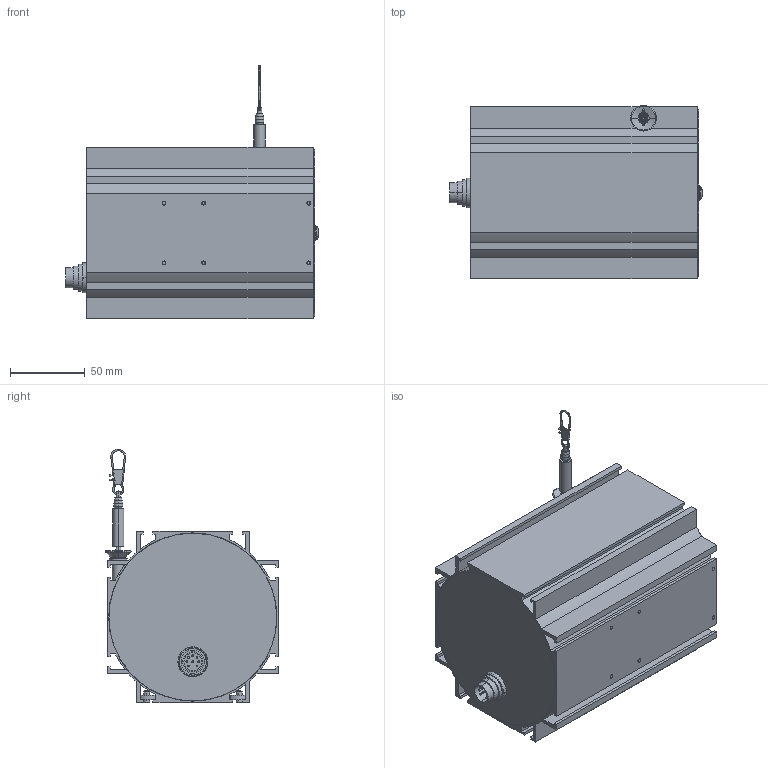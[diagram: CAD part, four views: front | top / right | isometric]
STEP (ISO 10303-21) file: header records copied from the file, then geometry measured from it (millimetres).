
FILE_DESCRIPTION((''),'2;1');
FILE_NAME('','2007-03-21T',(''),(''),'PRO/ENGINEER BY PARAMETRIC TECHNOLOGY CORPORATION, 2003250','PRO/ENGINEER BY PARAMETRIC TECHNOLOGY CORPORATION, 2003250','');
FILE_SCHEMA(('CONFIG_CONTROL_DESIGN'));
Length unit declared in the file: millimetre
Bounding box: 169.47 x 116.11 x 170 mm (x, y, z)
Volume: 320337.5 mm3; surface area: 204670.2 mm2
Topology: 1 solids, 5 shells, 585 faces, 1434 edges, 933 vertices
Faces by surface type: plane 290, cylinder 209, cone 56, torus 26, sphere 4
Entity records: 17864 total; most frequent: CARTESIAN_POINT 3554, DIRECTION 3109, ORIENTED_EDGE 2856, EDGE_CURVE 1428, AXIS2_PLACEMENT_3D 1155, VERTEX_POINT 933, VECTOR 799, LINE 799
